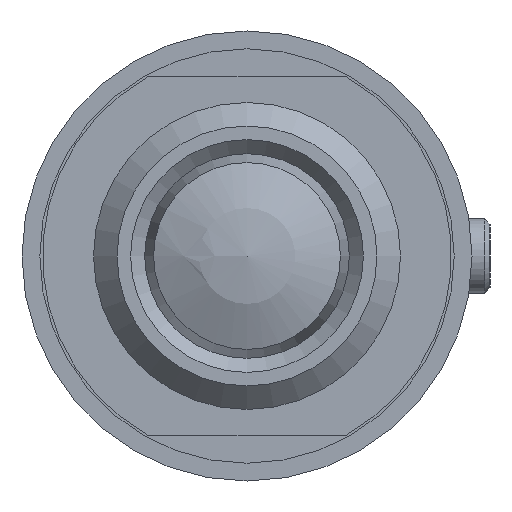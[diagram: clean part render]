
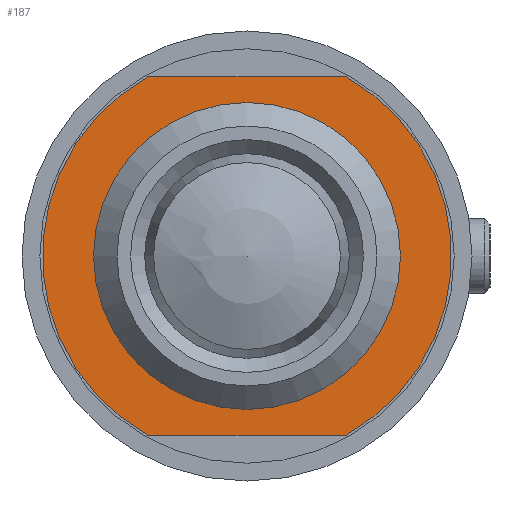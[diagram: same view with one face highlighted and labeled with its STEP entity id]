
A CAD part, left-side view. The second image highlights one B-rep face of the part: STEP entity #187.
In plain terms, the highlighted planar face has unit normal (-1, 0, 0) as drawn and (1, 0, 0) by its records, which use the part's own axes.
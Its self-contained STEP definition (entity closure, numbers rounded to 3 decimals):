
#187 = ADVANCED_FACE( '', ( #263, #264 ), #265, .T. );
#263 = FACE_BOUND( '', #377, .T. );
#264 = FACE_OUTER_BOUND( '', #378, .T. );
#265 = PLANE( '', #379 );
#377 = EDGE_LOOP( '', ( #541 ) );
#378 = EDGE_LOOP( '', ( #542, #543, #544, #545 ) );
#379 = AXIS2_PLACEMENT_3D( '', #546, #547, #548 );
#541 = ORIENTED_EDGE( '', *, *, #668, .F. );
#542 = ORIENTED_EDGE( '', *, *, #662, .T. );
#543 = ORIENTED_EDGE( '', *, *, #659, .T. );
#544 = ORIENTED_EDGE( '', *, *, #653, .T. );
#545 = ORIENTED_EDGE( '', *, *, #657, .T. );
#546 = CARTESIAN_POINT( '', ( 23., 0., 0. ) );
#547 = DIRECTION( '', ( 1., 0., 0. ) );
#548 = DIRECTION( '', ( 0., 0., -1. ) );
#653 = EDGE_CURVE( '', #711, #709, #712, .T. );
#657 = EDGE_CURVE( '', #709, #716, #718, .T. );
#659 = EDGE_CURVE( '', #721, #711, #722, .T. );
#662 = EDGE_CURVE( '', #716, #721, #725, .T. );
#668 = EDGE_CURVE( '', #736, #736, #737, .T. );
#709 = VERTEX_POINT( '', #948 );
#711 = VERTEX_POINT( '', #951 );
#712 = CIRCLE( '', #952, 8. );
#716 = VERTEX_POINT( '', #958 );
#718 = LINE( '', #961, #962 );
#721 = VERTEX_POINT( '', #966 );
#722 = LINE( '', #967, #968 );
#725 = CIRCLE( '', #972, 8. );
#736 = VERTEX_POINT( '', #983 );
#737 = CIRCLE( '', #984, 5.1 );
#948 = CARTESIAN_POINT( '', ( 23., -3.873, -7. ) );
#951 = CARTESIAN_POINT( '', ( 23., -3.873, 7. ) );
#952 = AXIS2_PLACEMENT_3D( '', #1193, #1194, #1195 );
#958 = CARTESIAN_POINT( '', ( 23., 3.873, -7. ) );
#961 = CARTESIAN_POINT( '', ( 23., -3.873, -7. ) );
#962 = VECTOR( '', #1199, 1000. );
#966 = CARTESIAN_POINT( '', ( 23., 3.873, 7. ) );
#967 = CARTESIAN_POINT( '', ( 23., 3.873, 7. ) );
#968 = VECTOR( '', #1201, 1000. );
#972 = AXIS2_PLACEMENT_3D( '', #1206, #1207, #1208 );
#983 = CARTESIAN_POINT( '', ( 23., 0., -5.1 ) );
#984 = AXIS2_PLACEMENT_3D( '', #1224, #1225, #1226 );
#1193 = CARTESIAN_POINT( '', ( 23., 0., 0. ) );
#1194 = DIRECTION( '', ( 1., 0., 0. ) );
#1195 = DIRECTION( '', ( 0., 0., -1. ) );
#1199 = DIRECTION( '', ( 0., 1., 0. ) );
#1201 = DIRECTION( '', ( 0., -1., 0. ) );
#1206 = CARTESIAN_POINT( '', ( 23., 0., 0. ) );
#1207 = DIRECTION( '', ( 1., 0., 0. ) );
#1208 = DIRECTION( '', ( 0., 0., -1. ) );
#1224 = CARTESIAN_POINT( '', ( 23., 0., 0. ) );
#1225 = DIRECTION( '', ( 1., 0., 0. ) );
#1226 = DIRECTION( '', ( 0., 0., -1. ) );
